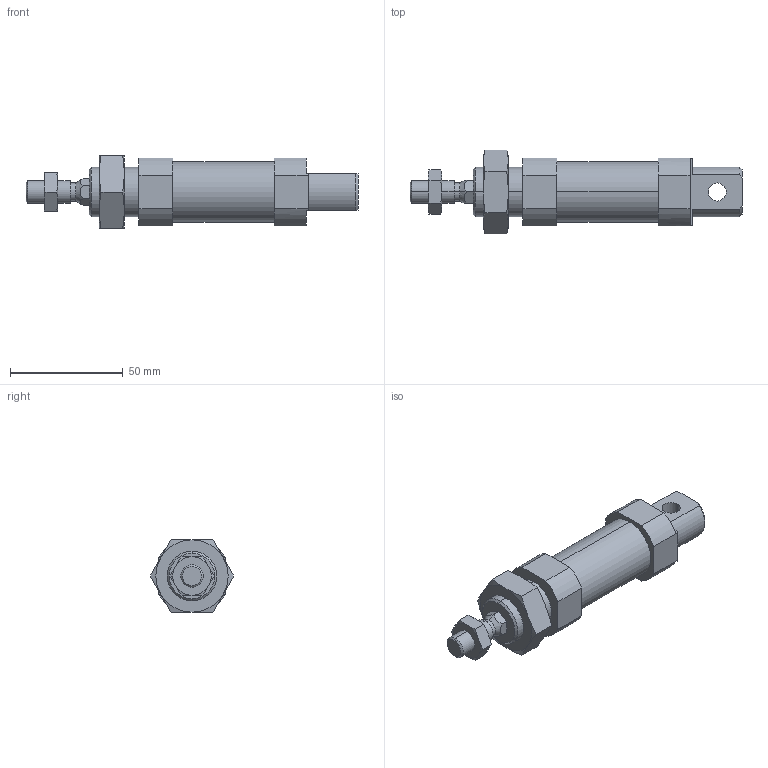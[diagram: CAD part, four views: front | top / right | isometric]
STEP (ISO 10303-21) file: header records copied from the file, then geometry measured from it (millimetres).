
FILE_DESCRIPTION (( 'STEP AP203' ), '1' );
FILE_NAME ('CSMK25-10.STEP', '2020-04-02T10:49:46', ( '' ), ( '' ), 'SwSTEP 2.0', 'SolidWorks 2019', '' );
FILE_SCHEMA (( 'CONFIG_CONTROL_DESIGN' ));
Length unit declared in the file: millimetre
Products named in the file (1): CSMK25-10
Bounding box: 147 x 36.95 x 32 mm (x, y, z)
Volume: 68052.9 mm3; surface area: 23538.8 mm2
Topology: 4 solids, 4 shells, 135 faces, 310 edges, 188 vertices
Faces by surface type: plane 53, cone 50, cylinder 32
Entity records: 4281 total; most frequent: CARTESIAN_POINT 1196, DIRECTION 632, ORIENTED_EDGE 612, EDGE_CURVE 306, AXIS2_PLACEMENT_3D 248, VERTEX_POINT 188, EDGE_LOOP 150, VECTOR 136
